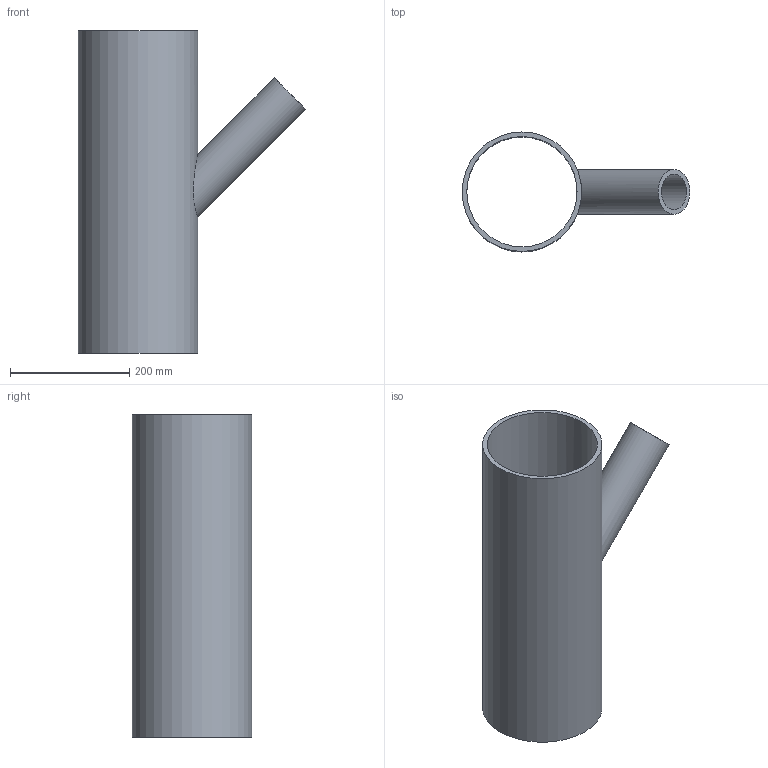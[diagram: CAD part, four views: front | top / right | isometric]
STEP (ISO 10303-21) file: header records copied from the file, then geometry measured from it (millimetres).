
FILE_DESCRIPTION(/* description */ (''),/* implementation_level */ '2;1');
FILE_NAME(/* name */ 'C:\Planerdaten\Export PLA\PRO_101557\stp\370125.stp',/* time_stamp */ '2021-09-30T15:08:26+02:00',/* author */ ('JANAN'),/* organization */ (''),/* preprocessor_version */ 'ST-DEVELOPER v16.13',/* originating_system */ 'Autodesk Inventor 2018',/* authorisation */ '');
FILE_SCHEMA (('AUTOMOTIVE_DESIGN { 1 0 10303 214 3 1 1 }'));
Length unit declared in the file: millimetre
Products named in the file (1): tmp859E.tmp
Bounding box: 381.07 x 200 x 540 mm (x, y, z)
Volume: 2844014.5 mm3; surface area: 749358.3 mm2
Topology: 1 solids, 1 shells, 7 faces, 17 edges, 12 vertices
Faces by surface type: cylinder 4, plane 3
Full cylindrical faces by diameter (mm): 59.6 x1, 75 x1, 184.6 x1, 200 x1
Entity records: 324 total; most frequent: CARTESIAN_POINT 146, DIRECTION 28, EDGE_LOOP 16, ORIENTED_EDGE 16, AXIS2_PLACEMENT_3D 14, FACE_BOUND 9, VERTEX_POINT 8, EDGE_CURVE 8
